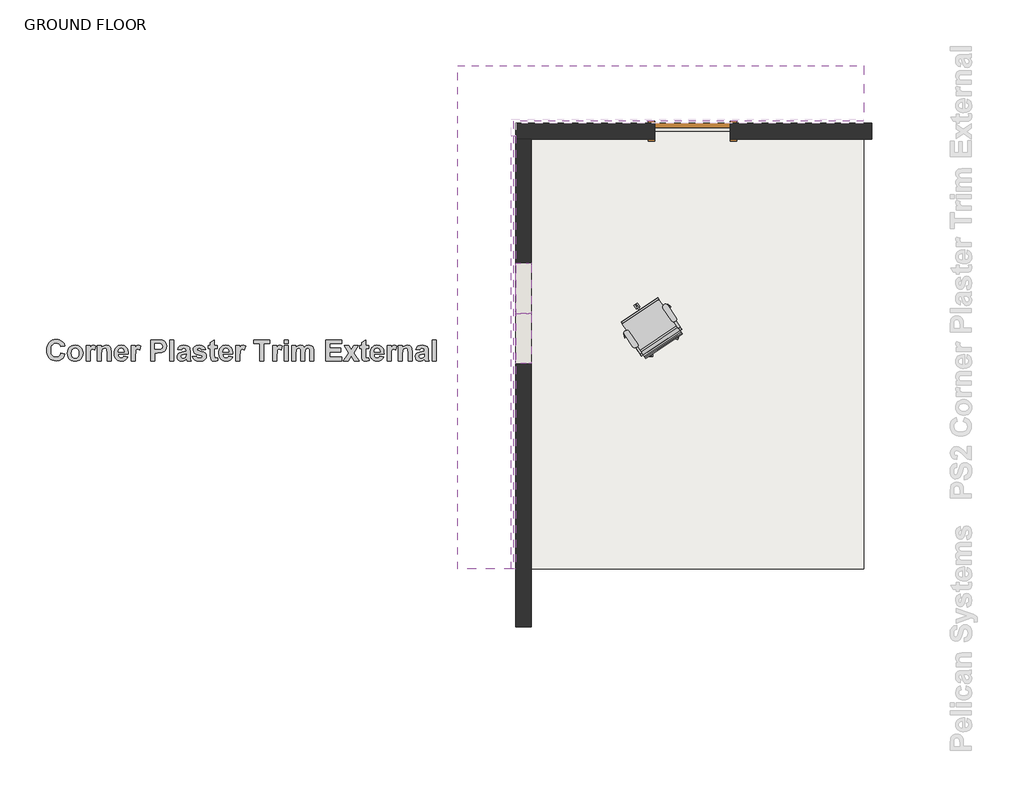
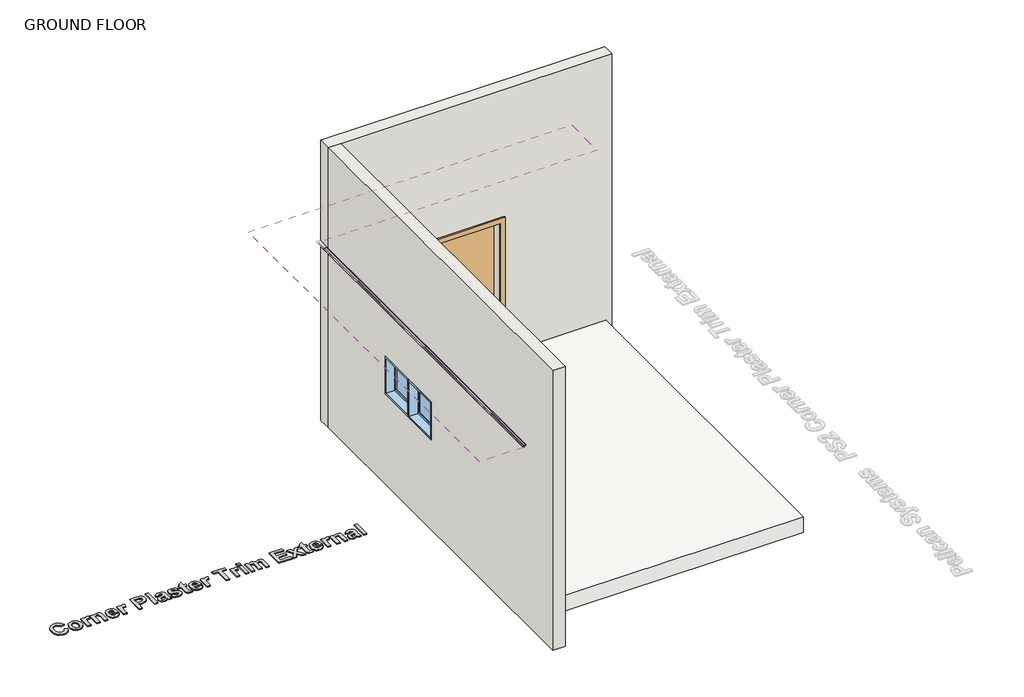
# One storey, part 1 of 2: 2 proxies, 2 walls, 2 windows, 1 covering, 1 door, 1 furniture element, 1 slab.
"""IFC4 building model written with IfcOpenShell, lengths in millimetres."""

from ifc_helpers import new_model, si_unit, frame, origin, origin_with_axes, place, context, project, spatial, polyline, outline, extrude, faceted_brep, transform, mapped, element, save
from components import m_single_flush_0915_x_2134mm_f5238887, chair_task_arms_chair_task_arms_3b363349, m_fixed_0610_x_0610mm_09852ef8

model = new_model("IFC4")

# Units and contexts
model_context = context("Model", 3, world=origin())
ifc_project = project(units=[si_unit("LENGTHUNIT", "METRE", prefix="MILLI")], contexts=[model_context])

# Site, building, storey
site = spatial("IfcSite", under=ifc_project)
building = spatial("IfcBuilding", under=site)
storey = spatial("IfcBuildingStorey", under=building, Name="GROUND FLOOR", Elevation=0.0)

# Proxies
placement = place(None, origin())
element("IfcBuildingElementProxy", 1, Name="600mm Arial", ObjectType="600mm Arial", at=placement, inside=storey, context=model_context, shape_type="SweptSolid", body=[
    extrude(outline(polyline([(107249.9452118, 62529.2353159), (107298.5289927, 62513.0407223), (107283.2042259, 62477.2592104), (107272.6832753, 62463.3241896), (107260.2566132, 62452.0263255), (107229.8917501, 62437.0573969), (107192.315232, 62432.067754), (107167.9877577, 62434.1988297), (107145.9297407, 62440.5920567), (107126.1411808, 62451.2474351), (107108.6220781, 62466.1649649), (107094.2857509, 62484.7792585), (107084.0455171, 62506.5249287), (107077.9013768, 62531.4019754), (107075.8533301, 62559.4103986), (107077.9191687, 62588.9449725), (107084.1166847, 62614.9844241), (107094.4458781, 62637.5287534), (107108.9067487, 62656.5779605), (107126.7362214, 62671.7169007), (107147.1712207, 62682.5304294), (107170.2117467, 62689.0185467), (107195.8577994, 62691.1812524), (107218.283516, 62689.3981075), (107238.495128, 62684.0486726), (107256.4926354, 62675.1329478), (107272.2760382, 62662.6509331), (107287.600805, 62642.1388355), (107298.5289927, 62614.2569326), (107249.9452118, 62606.1596358), (107242.5042388, 62622.9631082), (107229.7968599, 62635.7970073), (107212.8036071, 62643.9338417), (107192.5050124, 62646.6461199), (107165.0580229, 62641.7197371), (107143.3202602, 62626.9405889), (107135.0588824, 62615.5636497), (107129.1578983, 62601.1383628), (107124.437111, 62563.1427464), (107129.015563, 62523.0674531), (107134.738628, 62508.0827095), (107142.7509191, 62496.4665678), (107163.8244503, 62481.5688069), (107190.4174281, 62476.6028866), (107210.4946123, 62479.7738006), (107227.5827553, 62489.2865429), (107240.9701806, 62505.6155643), (107249.9452118, 62529.2353159)])), origin_with_axes(), (0.0, 0.0, 1.0), 15.0),
    extrude(outline(polyline([(107326.8695316, 62527.843593), (107329.8664804, 62551.9377956), (107338.8573265, 62575.2570615), (107353.3359891, 62595.4765811), (107372.7963871, 62610.2715443), (107396.0286703, 62619.3335581), (107421.8229889, 62622.3542294), (107441.8151673, 62620.6422521), (107459.9134956, 62615.5063202), (107476.1179736, 62606.9464336), (107490.4286015, 62594.9625925), (107502.1218414, 62580.3613634), (107510.4741556, 62563.9493131), (107515.4855442, 62545.7264414), (107517.156007, 62525.6927486), (107515.4677523, 62505.4989285), (107510.402988, 62487.1119759), (107501.9617142, 62470.5318908), (107490.1439309, 62455.7586732), (107475.768066, 62443.6226124), (107459.6525475, 62434.9539975), (107441.7973754, 62429.7528286), (107422.2025497, 62428.0191056), (107397.4283007, 62430.9053491), (107373.8401792, 62439.5640796), (107353.5969372, 62453.8055167), (107338.8573265, 62473.43988), (107329.8664804, 62498.2062214), (107326.8695316, 62527.843593)]), holes=[polyline([(107375.4533126, 62525.1866675), (107378.8140071, 62499.210476), (107388.8960905, 62480.1138239), (107403.9124642, 62468.371162), (107422.0760295, 62464.4569413), (107440.2237797, 62468.371162), (107455.1927083, 62480.1138239), (107465.2273466, 62499.3053662), (107468.5722261, 62525.5662283), (107465.2273466, 62551.2577492), (107455.1927083, 62570.2595112), (107440.2237797, 62582.0021731), (107422.0760295, 62585.9163937), (107403.9124642, 62582.0021731), (107388.8960905, 62570.2595112), (107378.8140071, 62551.162859), (107375.4533126, 62525.1866675)])]), origin_with_axes(), (0.0, 0.0, 1.0), 15.0),
    extrude(outline(polyline([(107602.1776237, 62432.067754), (107553.5938427, 62432.067754), (107553.5938427, 62618.305581), (107602.1776237, 62618.305581), (107602.1776237, 62592.3689271), (107621.598484, 62616.5659274), (107641.2091248, 62622.3542294), (107656.3757413, 62619.7921941), (107671.0046467, 62612.1060881), (107656.8343772, 62565.862932), (107645.1312529, 62571.7935693), (107634.3137705, 62573.7704485), (107617.2019049, 62568.235187), (107610.9549669, 62560.4779133), (107606.194642, 62548.2766155), (107602.1776237, 62487.7999298), (107602.1776237, 62432.067754)])), origin_with_axes(), (0.0, 0.0, 1.0), 15.0),
    extrude(outline(polyline([(107857.2424737, 62432.067754), (107808.6586927, 62432.067754), (107808.6586927, 62527.7803329), (107805.6222064, 62567.1281347), (107795.6903658, 62580.9821034), (107779.1794715, 62585.9163937), (107767.4209945, 62584.1530175), (107756.9435353, 62578.862889), (107748.656458, 62570.654887), (107743.4691273, 62560.1378901), (107739.8316697, 62517.0261106), (107739.8316697, 62432.067754), (107691.2478888, 62432.067754), (107691.2478888, 62618.305581), (107739.8316697, 62618.305581), (107739.8316697, 62591.4832853), (107752.123904, 62604.9893233), (107765.9106589, 62614.6364934), (107781.1919344, 62620.4247954), (107797.9677305, 62622.3542294), (107826.1817491, 62616.4710372), (107845.5393494, 62601.478386), (107854.6804383, 62580.8239531), (107857.2424737, 62547.7072743), (107857.2424737, 62432.067754)])), origin_with_axes(), (0.0, 0.0, 1.0), 15.0),
    extrude(outline(polyline([(108011.0911133, 62488.7488318), (108059.6748943, 62480.651535), (108047.8452497, 62457.9806854), (108030.7017541, 62441.4618835), (108008.4183728, 62431.3798001), (107981.1690712, 62428.0191056), (107959.1664067, 62429.9999385), (107940.2239511, 62435.9424371), (107924.3417043, 62445.8466014), (107911.5196664, 62459.7124315), (107898.1401486, 62488.4167161), (107893.6803094, 62523.7949446), (107895.159015, 62545.635505), (107899.5951317, 62564.9772902), (107906.9886595, 62581.8203002), (107917.3395985, 62596.164535), (107929.9520872, 62607.6225263), (107944.1302642, 62615.8068058), (107959.8741294, 62620.7173735), (107977.1836829, 62622.3542294), (107996.4187166, 62620.6738822), (108013.5108134, 62615.6328404), (108028.4599732, 62607.2311042), (108041.266196, 62595.4686735), (108051.470846, 62580.2348431), (108058.6152871, 62561.4189078), (108062.6995193, 62539.0208675), (108063.7235427, 62513.0407223), (107942.2640903, 62513.0407223), (107945.3796518, 62492.5760697), (107953.7141741, 62477.2354879), (107966.0024547, 62467.651578), (107980.9792908, 62464.4569413), (107991.179987, 62465.8961093), (107999.6410296, 62470.2136133), (108006.2991584, 62477.7257539), (108011.0911133, 62488.7488318)]), holes=[polyline([(108015.1397618, 62541.3812612), (108012.1823506, 62560.5886186), (108004.3222793, 62574.5612001), (107992.9038256, 62583.0775953), (107979.2712672, 62585.9163937), (107964.8795873, 62582.9273525), (107953.2080931, 62573.9602289), (107945.5536172, 62559.8057744), (107943.086472, 62541.3812612), (108015.1397618, 62541.3812612)])]), origin_with_axes(), (0.0, 0.0, 1.0), 15.0),
    extrude(outline(polyline([(108148.7451594, 62432.067754), (108100.1613784, 62432.067754), (108100.1613784, 62618.305581), (108148.7451594, 62618.305581), (108148.7451594, 62592.3689271), (108168.1660197, 62616.5659274), (108187.7766605, 62622.3542294), (108202.943277, 62619.7921941), (108217.5721824, 62612.1060881), (108203.4019129, 62565.862932), (108191.6987886, 62571.7935693), (108180.8813061, 62573.7704485), (108163.7694406, 62568.235187), (108157.5225026, 62560.4779133), (108152.7621777, 62548.2766155), (108148.7451594, 62487.7999298), (108148.7451594, 62432.067754)])), origin_with_axes(), (0.0, 0.0, 1.0), 15.0),
    extrude(outline(polyline([(108334.9829863, 62432.067754), (108334.9829863, 62687.132604), (108417.1578971, 62687.132604), (108478.0774037, 62683.3369961), (108498.1229578, 62674.2828898), (108514.6101296, 62658.5073945), (108525.641115, 62636.5956665), (108529.3181101, 62609.1328619), (108527.1593582, 62587.6481398), (108520.6831022, 62569.8799504), (108510.8777818, 62555.6780509), (108498.7318366, 62544.8921985), (108471.6881304, 62532.8411434), (108417.600718, 62529.2353159), (108383.5667673, 62529.2353159), (108383.5667673, 62432.067754), (108334.9829863, 62432.067754)]), holes=[polyline([(108383.5667673, 62642.5974715), (108383.5667673, 62573.7704485), (108413.74185, 62573.7704485), (108457.2964505, 62577.5660563), (108474.5032063, 62589.4905911), (108479.1765485, 62598.2758419), (108480.7343292, 62608.3737404), (108478.5439471, 62620.4406104), (108471.972801, 62630.1984857), (108462.0646829, 62637.1887302), (108449.8633851, 62640.9527081), (108410.1992826, 62642.5974715), (108383.5667673, 62642.5974715)])]), origin_with_axes(), (0.0, 0.0, 1.0), 15.0),
    extrude(outline(polyline([(108569.8045943, 62432.067754), (108569.8045943, 62687.132604), (108618.3883752, 62687.132604), (108618.3883752, 62432.067754), (108569.8045943, 62432.067754)])), origin_with_axes(), (0.0, 0.0, 1.0), 15.0),
    extrude(outline(polyline([(108707.4586403, 62561.6245032), (108662.9235078, 62569.7218), (108672.5785853, 62593.0647885), (108687.3735486, 62609.4491626), (108708.9373459, 62619.1279627), (108738.8989256, 62622.3542294), (108765.9900769, 62620.4010728), (108785.1420817, 62614.5416032), (108798.0787786, 62605.6851848), (108806.5240061, 62594.741182), (108811.1736258, 62577.7321142), (108812.723499, 62550.6805005), (108812.723499, 62493.2403011), (108815.2855343, 62457.0555059), (108824.8694443, 62432.067754), (108776.2856633, 62432.067754), (108771.7309338, 62447.5032261), (108770.0229103, 62453.6394588), (108744.0229963, 62434.4400089), (108729.7103915, 62429.6243314), (108714.4805149, 62428.0191056), (108689.7062659, 62431.9175112), (108670.7993941, 62443.612728), (108658.8195067, 62461.2543972), (108654.8262109, 62482.9921598), (108656.6054021, 62497.8899208), (108661.9429757, 62511.0796582), (108670.491001, 62521.9762158), (108681.9015472, 62529.9944375), (108718.9087241, 62541.4445213), (108764.1397181, 62553.5272064), (108764.1397181, 62558.651277), (108762.6293824, 62571.2716733), (108758.0983755, 62579.6536407), (108749.3921999, 62584.3507054), (108735.3563583, 62585.9163937), (108725.2821823, 62584.5721159), (108717.7067816, 62580.5392825), (108707.4586403, 62561.6245032)]), holes=[polyline([(108764.1397181, 62517.0893707), (108736.7480812, 62510.3521667), (108712.2031502, 62502.6660607), (108705.6082815, 62495.7548914), (108703.4099919, 62487.1673285), (108705.1733681, 62478.5560431), (108710.4634965, 62471.1941453), (108718.4738107, 62466.1412423), (108728.3977438, 62464.4569413), (108740.3064636, 62466.4180054), (108751.614212, 62472.3011976), (108762.3684344, 62486.8510279), (108764.1397181, 62508.2962124), (108764.1397181, 62517.0893707)])]), origin_with_axes(), (0.0, 0.0, 1.0), 15.0),
    extrude(outline(polyline([(108841.0640379, 62484.7001834), (108889.6478189, 62492.7974802), (108894.273716, 62480.5566448), (108902.0784347, 62471.6685963), (108913.3308306, 62466.2598551), (108928.2997592, 62464.4569413), (108944.5417979, 62466.1807799), (108956.1974771, 62471.3522956), (108960.941987, 62476.9824473), (108962.5234903, 62484.2573625), (108959.1707033, 62493.3668214), (108943.2924103, 62499.7560947), (108896.3692078, 62512.1867105), (108870.479999, 62523.5419041), (108854.4910008, 62541.5235965), (108849.1613347, 62565.356851), (108853.7318792, 62587.5453421), (108867.4435127, 62605.9065952), (108890.7706862, 62618.2423209), (108924.1878506, 62622.3542294), (108956.0551418, 62619.0330725), (108978.5283035, 62609.0696018), (108993.5367697, 62592.5903376), (109003.0099744, 62569.7218), (108954.4261935, 62561.6245032), (108950.851996, 62572.0149798), (108945.063694, 62579.6536407), (108936.7133567, 62584.3507054), (108925.4530533, 62585.9163937), (108911.6148995, 62584.5879309), (108902.3631053, 62580.6025427), (108897.7451157, 62570.7339621), (108902.3631053, 62561.9408039), (108945.3483646, 62548.3398756), (108976.575147, 62538.5187402), (108996.6839613, 62526.6416505), (109007.5014437, 62510.968953), (109011.1072712, 62490.1405547), (109005.8804029, 62466.4417279), (108990.1997978, 62446.3329137), (108978.4907428, 62438.3206226), (108964.2710514, 62432.5975576), (108928.2997592, 62428.0191056), (108894.9853925, 62431.8305285), (108869.4362069, 62443.2647973), (108851.5098671, 62461.2464896), (108841.0640379, 62484.7001834)])), origin_with_axes(), (0.0, 0.0, 1.0), 15.0),
    extrude(outline(polyline([(109144.7126689, 62618.305581), (109144.7126689, 62581.8677453), (109108.2748331, 62581.8677453), (109108.2748331, 62501.9701993), (109109.3818854, 62473.7245506), (109114.4110659, 62467.0822368), (109123.9633457, 62464.4569413), (109146.7369931, 62469.138191), (109148.7613173, 62434.5981593), (109130.0205033, 62429.663869), (109108.9706946, 62428.0191056), (109084.4257636, 62432.5738351), (109068.3893203, 62444.3402195), (109061.2725555, 62463.8876001), (109059.6910522, 62499.2500136), (109059.6910522, 62581.8677453), (109035.3991617, 62581.8677453), (109035.3991617, 62618.305581), (109059.6910522, 62618.305581), (109059.6910522, 62654.7434167), (109108.2748331, 62683.0839556), (109108.2748331, 62618.305581), (109144.7126689, 62618.305581)])), origin_with_axes(), (0.0, 0.0, 1.0), 15.0),
    extrude(outline(polyline([(109278.3180665, 62488.7488318), (109326.9018474, 62480.651535), (109315.0722028, 62457.9806854), (109297.9287072, 62441.4618835), (109275.6453259, 62431.3798001), (109248.3960243, 62428.0191056), (109226.3933598, 62429.9999385), (109207.4509042, 62435.9424371), (109191.5686575, 62445.8466014), (109178.7466196, 62459.7124315), (109165.3671018, 62488.4167161), (109160.9072625, 62523.7949446), (109162.3859681, 62545.635505), (109166.8220848, 62564.9772902), (109174.2156127, 62581.8203002), (109184.5665517, 62596.164535), (109197.1790404, 62607.6225263), (109211.3572173, 62615.8068058), (109227.1010825, 62620.7173735), (109244.410636, 62622.3542294), (109263.6456697, 62620.6738822), (109280.7377665, 62615.6328404), (109295.6869263, 62607.2311042), (109308.4931492, 62595.4686735), (109318.6977991, 62580.2348431), (109325.8422402, 62561.4189078), (109329.9264725, 62539.0208675), (109330.9504958, 62513.0407223), (109209.4910435, 62513.0407223), (109212.6066049, 62492.5760697), (109220.9411272, 62477.2354879), (109233.2294078, 62467.651578), (109248.2062439, 62464.4569413), (109258.4069401, 62465.8961093), (109266.8679827, 62470.2136133), (109273.5261115, 62477.7257539), (109278.3180665, 62488.7488318)]), holes=[polyline([(109282.3667149, 62541.3812612), (109279.4093037, 62560.5886186), (109271.5492324, 62574.5612001), (109260.1307787, 62583.0775953), (109246.4982203, 62585.9163937), (109232.1065404, 62582.9273525), (109220.4350462, 62573.9602289), (109212.7805703, 62559.8057744), (109210.3134252, 62541.3812612), (109282.3667149, 62541.3812612)])]), origin_with_axes(), (0.0, 0.0, 1.0), 15.0),
    extrude(outline(polyline([(109415.9721125, 62432.067754), (109367.3883315, 62432.067754), (109367.3883315, 62618.305581), (109415.9721125, 62618.305581), (109415.9721125, 62592.3689271), (109435.3929728, 62616.5659274), (109455.0036136, 62622.3542294), (109470.1702301, 62619.7921941), (109484.7991355, 62612.1060881), (109470.6288661, 62565.862932), (109458.9257417, 62571.7935693), (109448.1082593, 62573.7704485), (109430.9963937, 62568.235187), (109424.7494557, 62560.4779133), (109419.9891308, 62548.2766155), (109415.9721125, 62487.7999298), (109415.9721125, 62432.067754)])), origin_with_axes(), (0.0, 0.0, 1.0), 15.0),
    extrude(outline(polyline([(109658.8910172, 62432.067754), (109658.8910172, 62642.5974715), (109586.0153458, 62642.5974715), (109586.0153458, 62687.132604), (109780.3504696, 62687.132604), (109780.3504696, 62642.5974715), (109707.4747982, 62642.5974715), (109707.4747982, 62432.067754), (109658.8910172, 62432.067754)])), origin_with_axes(), (0.0, 0.0, 1.0), 15.0),
    extrude(outline(polyline([(109861.3234379, 62432.067754), (109812.7396569, 62432.067754), (109812.7396569, 62618.305581), (109861.3234379, 62618.305581), (109861.3234379, 62592.3689271), (109880.7442982, 62616.5659274), (109900.354939, 62622.3542294), (109915.5215555, 62619.7921941), (109930.1504609, 62612.1060881), (109915.9801914, 62565.862932), (109904.2770671, 62571.7935693), (109893.4595846, 62573.7704485), (109876.3477191, 62568.235187), (109870.1007811, 62560.4779133), (109865.3404562, 62548.2766155), (109861.3234379, 62487.7999298), (109861.3234379, 62432.067754)])), origin_with_axes(), (0.0, 0.0, 1.0), 15.0),
    extrude(outline(polyline([(109950.3937029, 62642.5974715), (109950.3937029, 62687.132604), (109998.9774839, 62687.132604), (109998.9774839, 62642.5974715), (109950.3937029, 62642.5974715)])), origin_with_axes(), (0.0, 0.0, 1.0), 15.0),
    extrude(outline(polyline([(109950.3937029, 62432.067754), (109950.3937029, 62618.305581), (109998.9774839, 62618.305581), (109998.9774839, 62432.067754), (109950.3937029, 62432.067754)])), origin_with_axes(), (0.0, 0.0, 1.0), 15.0),
    extrude(outline(polyline([(110043.5126164, 62618.305581), (110092.0963974, 62618.305581), (110092.0963974, 62593.3810892), (110104.056516, 62606.056838), (110117.0999643, 62615.1109444), (110131.2267424, 62620.5434081), (110146.4368503, 62622.3542294), (110162.0858253, 62620.5750382), (110175.5048807, 62615.2374646), (110186.7098315, 62606.2940635), (110195.7164927, 62593.6973899), (110208.155016, 62606.2940635), (110221.5582564, 62615.2374646), (110235.9103987, 62620.5750382), (110251.195628, 62622.3542294), (110269.6517713, 62620.2745526), (110285.0397983, 62614.0355221), (110297.1541135, 62603.7636583), (110305.7891214, 62589.5854813), (110309.4898391, 62574.007674), (110310.7234117, 62551.0600613), (110310.7234117, 62432.067754), (110262.1396307, 62432.067754), (110262.1396307, 62539.2936768), (110260.9060581, 62562.2412895), (110257.2053405, 62575.2886916), (110248.823373, 62583.2594682), (110236.8355781, 62585.9163937), (110227.1330555, 62584.3269829), (110218.015689, 62579.5587505), (110210.4244733, 62571.7224017), (110205.3004026, 62560.9286418), (110201.4099045, 62522.1501812), (110201.4099045, 62432.067754), (110152.8261236, 62432.067754), (110152.8261236, 62534.8654676), (110150.2957183, 62570.196251), (110142.4830921, 62582.0258956), (110128.0914122, 62585.9163937), (110117.7009356, 62584.374428), (110108.4175113, 62579.7485309), (110100.9211857, 62572.2047602), (110095.8920053, 62561.9091738), (110092.0963974, 62523.2256034), (110092.0963974, 62432.067754), (110043.5126164, 62432.067754), (110043.5126164, 62618.305581)])), origin_with_axes(), (0.0, 0.0, 1.0), 15.0),
    extrude(outline(polyline([(110456.4747545, 62432.067754), (110456.4747545, 62687.132604), (110646.7612299, 62687.132604), (110646.7612299, 62642.5974715), (110505.0585355, 62642.5974715), (110505.0585355, 62585.9163937), (110638.6639331, 62585.9163937), (110638.6639331, 62541.3812612), (110505.0585355, 62541.3812612), (110505.0585355, 62476.6028866), (110650.8098783, 62476.6028866), (110650.8098783, 62432.067754), (110456.4747545, 62432.067754)])), origin_with_axes(), (0.0, 0.0, 1.0), 15.0),
    extrude(outline(polyline([(110669.0287962, 62432.067754), (110734.8193329, 62527.9701133), (110677.126093, 62618.305581), (110734.882593, 62618.305581), (110762.9700914, 62567.1281347), (110793.4614747, 62618.305581), (110851.2179747, 62618.305581), (110791.8167113, 62530.1209578), (110859.3152716, 62432.067754), (110801.5587715, 62432.067754), (110762.9700914, 62489.7609939), (110726.7852962, 62432.067754), (110669.0287962, 62432.067754)])), origin_with_axes(), (0.0, 0.0, 1.0), 15.0),
    extrude(outline(polyline([(110974.7017513, 62618.305581), (110974.7017513, 62581.8677453), (110938.2639156, 62581.8677453), (110938.2639156, 62501.9701993), (110939.3709679, 62473.7245506), (110944.4001484, 62467.0822368), (110953.9524282, 62464.4569413), (110976.7260755, 62469.138191), (110978.7503997, 62434.5981593), (110960.0095858, 62429.663869), (110938.959777, 62428.0191056), (110914.414846, 62432.5738351), (110898.3784027, 62444.3402195), (110891.2616379, 62463.8876001), (110889.6801347, 62499.2500136), (110889.6801347, 62581.8677453), (110865.3882442, 62581.8677453), (110865.3882442, 62618.305581), (110889.6801347, 62618.305581), (110889.6801347, 62654.7434167), (110938.2639156, 62683.0839556), (110938.2639156, 62618.305581), (110974.7017513, 62618.305581)])), origin_with_axes(), (0.0, 0.0, 1.0), 15.0),
    extrude(outline(polyline([(111108.3071489, 62488.7488318), (111156.8909299, 62480.651535), (111145.0612853, 62457.9806854), (111127.9177897, 62441.4618835), (111105.6344084, 62431.3798001), (111078.3851068, 62428.0191056), (111056.3824423, 62429.9999385), (111037.4399867, 62435.9424371), (111021.5577399, 62445.8466014), (111008.735702, 62459.7124315), (110995.3561842, 62488.4167161), (110990.896345, 62523.7949446), (110992.3750505, 62545.635505), (110996.8111673, 62564.9772902), (111004.2046951, 62581.8203002), (111014.5556341, 62596.164535), (111027.1681228, 62607.6225263), (111041.3462998, 62615.8068058), (111057.090165, 62620.7173735), (111074.3997185, 62622.3542294), (111093.6347522, 62620.6738822), (111110.726849, 62615.6328404), (111125.6760088, 62607.2311042), (111138.4822316, 62595.4686735), (111148.6868816, 62580.2348431), (111155.8313227, 62561.4189078), (111159.9155549, 62539.0208675), (111160.9395783, 62513.0407223), (111039.4801259, 62513.0407223), (111042.5956874, 62492.5760697), (111050.9302097, 62477.2354879), (111063.2184902, 62467.651578), (111078.1953264, 62464.4569413), (111088.3960226, 62465.8961093), (111096.8570651, 62470.2136133), (111103.515194, 62477.7257539), (111108.3071489, 62488.7488318)]), holes=[polyline([(111112.3557973, 62541.3812612), (111109.3983862, 62560.5886186), (111101.5383149, 62574.5612001), (111090.1198611, 62583.0775953), (111076.4873028, 62585.9163937), (111062.0956229, 62582.9273525), (111050.4241287, 62573.9602289), (111042.7696528, 62559.8057744), (111040.3025076, 62541.3812612), (111112.3557973, 62541.3812612)])]), origin_with_axes(), (0.0, 0.0, 1.0), 15.0),
    extrude(outline(polyline([(111245.961195, 62432.067754), (111197.377414, 62432.067754), (111197.377414, 62618.305581), (111245.961195, 62618.305581), (111245.961195, 62592.3689271), (111265.3820553, 62616.5659274), (111284.9926961, 62622.3542294), (111300.1593126, 62619.7921941), (111314.788218, 62612.1060881), (111300.6179485, 62565.862932), (111288.9148242, 62571.7935693), (111278.0973417, 62573.7704485), (111260.9854762, 62568.235187), (111254.7385382, 62560.4779133), (111249.9782133, 62548.2766155), (111245.961195, 62487.7999298), (111245.961195, 62432.067754)])), origin_with_axes(), (0.0, 0.0, 1.0), 15.0),
    extrude(outline(polyline([(111501.0260449, 62432.067754), (111452.442264, 62432.067754), (111452.442264, 62527.7803329), (111449.4057777, 62567.1281347), (111439.473937, 62580.9821034), (111422.9630427, 62585.9163937), (111411.2045658, 62584.1530175), (111400.7271065, 62578.862889), (111392.4400293, 62570.654887), (111387.2526985, 62560.1378901), (111383.615241, 62517.0261106), (111383.615241, 62432.067754), (111335.03146, 62432.067754), (111335.03146, 62618.305581), (111383.615241, 62618.305581), (111383.615241, 62591.4832853), (111395.9074753, 62604.9893233), (111409.6942302, 62614.6364934), (111424.9755057, 62620.4247954), (111441.7513018, 62622.3542294), (111469.9653204, 62616.4710372), (111489.3229206, 62601.478386), (111498.4640096, 62580.8239531), (111501.0260449, 62547.7072743), (111501.0260449, 62432.067754)])), origin_with_axes(), (0.0, 0.0, 1.0), 15.0),
    extrude(outline(polyline([(111590.09631, 62561.6245032), (111545.5611775, 62569.7218), (111555.216255, 62593.0647885), (111570.0112183, 62609.4491626), (111591.5750156, 62619.1279627), (111621.5365953, 62622.3542294), (111648.6277466, 62620.4010728), (111667.7797514, 62614.5416032), (111680.7164483, 62605.6851848), (111689.1616759, 62594.741182), (111693.8112955, 62577.7321142), (111695.3611687, 62550.6805005), (111695.3611687, 62493.2403011), (111697.9232041, 62457.0555059), (111707.507114, 62432.067754), (111658.923333, 62432.067754), (111654.3686036, 62447.5032261), (111652.66058, 62453.6394588), (111626.660666, 62434.4400089), (111612.3480613, 62429.6243314), (111597.1181846, 62428.0191056), (111572.3439356, 62431.9175112), (111553.4370638, 62443.612728), (111541.4571765, 62461.2543972), (111537.4638807, 62482.9921598), (111539.2430719, 62497.8899208), (111544.5806454, 62511.0796582), (111553.1286707, 62521.9762158), (111564.5392169, 62529.9944375), (111601.5463938, 62541.4445213), (111646.7773878, 62553.5272064), (111646.7773878, 62558.651277), (111645.2670522, 62571.2716733), (111640.7360452, 62579.6536407), (111632.0298697, 62584.3507054), (111617.994028, 62585.9163937), (111607.9198521, 62584.5721159), (111600.3444513, 62580.5392825), (111590.09631, 62561.6245032)]), holes=[polyline([(111646.7773878, 62517.0893707), (111619.3857509, 62510.3521667), (111594.8408199, 62502.6660607), (111588.2459512, 62495.7548914), (111586.0476616, 62487.1673285), (111587.8110378, 62478.5560431), (111593.1011663, 62471.1941453), (111601.1114804, 62466.1412423), (111611.0354135, 62464.4569413), (111622.9441333, 62466.4180054), (111634.2518818, 62472.3011976), (111645.0061041, 62486.8510279), (111646.7773878, 62508.2962124), (111646.7773878, 62517.0893707)])]), origin_with_axes(), (0.0, 0.0, 1.0), 15.0),
    extrude(outline(polyline([(111743.9449497, 62432.067754), (111743.9449497, 62687.132604), (111792.5287306, 62687.132604), (111792.5287306, 62432.067754), (111743.9449497, 62432.067754)])), origin_with_axes(), (0.0, 0.0, 1.0), 15.0),
])
element("IfcBuildingElementProxy", 2, Name="TR02 : Pelican Systems Plaster Trim 25 x 20", ObjectType="TR02 : Pelican Systems Plaster Trim 25 x 20", at=placement, inside=storey, context=model_context, shape_type="SweptSolid", body=[
    extrude(outline(polyline([(2636.0, 112752.7345529), (2636.0, 112751.7345529), (2621.0, 112751.7345529), (2621.0, 112726.7345529), (2612.0, 112726.7345529), (2612.0, 112702.7345529), (2611.0, 112702.7345529), (2611.0, 112726.7345529), (2600.0, 112726.7345529), (2600.0, 112727.7345529), (2620.0, 112727.7345529), (2620.0, 112752.7345529), (2636.0, 112752.7345529)])), frame((0.0, 59912.9193804, 0.0), z_axis=(0.0, 1.0, 0.0), x_axis=(0.0, 0.0, 1.0)), (0.0, 0.0, 1.0), 5245.0),
])

# Covering
element("IfcCovering", 3, ObjectType="_C2.3 - 12mm FLUSHPLASTER CEILING (UNDER CONCRETE SOFFIT)", at=placement, inside=storey, context=model_context, shape_type="SweptSolid", body=[
    extrude(outline(polyline([(116966.7345529, 65333.9193804), (112726.7345529, 65333.9193804), (112726.7345529, 59912.9193804), (112052.7345529, 59912.9193804), (112052.7345529, 66007.9193804), (116966.7345529, 66007.9193804), (116966.7345529, 65333.9193804)])), frame((0.0, 0.0, 2600.0), z_axis=(0.0, 0.0, 1.0), x_axis=(1.0, 0.0, 0.0)), (0.0, 0.0, 1.0), 11.0),
])

# Door
m_single_flush_0915_x_2134mm_shape = m_single_flush_0915_x_2134mm_f5238887(model_context)
element("IfcDoor", 4, ObjectType="M_Single-Flush : 0915 x 2134mm", at=placement, inside=storey, context=model_context, shape_type="MappedRepresentation", body=[
    mapped(m_single_flush_0915_x_2134mm_shape, transform((114894.7345529, 65212.9193804, 0.0), x_axis=(1.0, 0.0, 0.0), y_axis=(0.0, 1.0, 0.0), z_axis=(0.0, 0.0, 1.0))),
])

# Furniture
chair_task_arms_chair_task_arms_shape = chair_task_arms_chair_task_arms_3b363349(model_context)
element("IfcFurniture", 5, ObjectType="Chair-Task Arms : Chair-Task Arms", at=placement, inside=storey, context=model_context, shape_type="MappedRepresentation", body=[
    mapped(chair_task_arms_chair_task_arms_shape, transform((114292.677586, 62736.7323612, 0.0), x_axis=(0.8290375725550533, 0.5591929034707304, 0.0), y_axis=(-0.5591929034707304, 0.8290375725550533, 0.0), z_axis=(0.0, 0.0, 1.0))),
])

# Slab
element("IfcSlab", 6, ObjectType="Generic Floor - 250mm", at=placement, inside=storey, context=model_context, shape_type="Brep", body=[
    faceted_brep([(112866.7345529, 65212.9193804, -250.0), (116966.7345529, 65212.9193804, -250.0), (116966.7345529, 65117.9193804, -250.0), (116966.7345529, 59912.9193804, -250.0), (112866.7345529, 59912.9193804, -250.0), (112866.7345529, 65117.9193804, -250.0), (112866.7345529, 65212.9193804, 0.0), (112866.7345529, 65117.9193804, 0.0), (112866.7345529, 59912.9193804, 0.0), (116966.7345529, 59912.9193804, 0.0), (116966.7345529, 65117.9193804, 0.0), (116966.7345529, 65212.9193804, 0.0), (115352.2345529, 65212.9193804, 0.0), (114437.2345529, 65212.9193804, 0.0)], [[[0, 1, 2, 3, 4, 5]], [[6, 7, 8, 9, 10, 11, 12, 13]], [[1, 0, 6, 13, 12, 11]], [[3, 2, 1, 11, 10, 9]], [[4, 3, 9, 8]], [[0, 5, 4, 8, 7, 6]]]),
])

# Walls
element("IfcWall", 7, ObjectType="190mm MAXI BLOCK- plastered", at=placement, inside=storey, context=model_context, shape_type="Brep", body=[
    faceted_brep([(117061.7345529, 65117.9193804, -250.0), (117061.7345529, 65117.9193804, 4250.0), (112942.7345529, 65117.9193804, 4250.0), (112752.7345529, 65117.9193804, 4250.0), (112752.7345529, 65117.9193804, -250.0), (112866.7345529, 65117.9193804, -250.0), (112866.7345529, 65117.9193804, 0.0), (114437.2345529, 65117.9193804, 0.0), (114437.2345529, 65117.9193804, 2134.0), (115352.2345529, 65117.9193804, 2134.0), (115352.2345529, 65117.9193804, 0.0), (116966.7345529, 65117.9193804, 0.0), (116966.7345529, 65117.9193804, -250.0), (117061.7345529, 65307.9193804, -250.0), (112752.7345529, 65307.9193804, -250.0), (112752.7345529, 65307.9193804, 4250.0), (117061.7345529, 65307.9193804, 4250.0), (114437.2345529, 65307.9193804, 0.0), (115352.2345529, 65307.9193804, 0.0), (115352.2345529, 65307.9193804, 2134.0), (114437.2345529, 65307.9193804, 2134.0), (116966.7345529, 65212.9193804, -250.0), (112866.7345529, 65212.9193804, -250.0), (114437.2345529, 65212.9193804, 0.0), (115352.2345529, 65212.9193804, 0.0), (112866.7345529, 65212.9193804, 0.0), (116966.7345529, 65212.9193804, 0.0)], [[[0, 1, 2, 3, 4, 5, 6, 7, 8, 9, 10, 11, 12]], [[13, 14, 15, 16], [17, 18, 19, 20]], [[14, 13, 0, 12, 21, 22, 5, 4]], [[1, 0, 13, 16]], [[3, 2, 1, 16, 15]], [[18, 17, 23, 24]], [[19, 18, 24, 10, 9]], [[20, 19, 9, 8]], [[17, 20, 8, 7, 23]], [[25, 23, 7, 6]], [[24, 26, 11, 10]], [[25, 22, 21, 26, 24, 23]], [[22, 25, 6, 5]], [[26, 21, 12, 11]], [[4, 3, 15, 14]]]),
])
element("IfcWall", 8, ObjectType="190mm MAXI BLOCK- plastered", at=placement, inside=storey, context=model_context, shape_type="SweptSolid", body=[
    extrude(outline(polyline([(65117.9193804, -250.0), (59212.9193804, -250.0), (59212.9193804, 4250.0), (65117.9193804, 4250.0), (65117.9193804, -250.0)]), holes=[polyline([(62397.9193804, 1200.0), (63617.9193804, 1200.0), (63617.9193804, 1810.0), (62397.9193804, 1810.0), (62397.9193804, 1200.0)])]), frame((112752.7345529, 0.0, 0.0), z_axis=(1.0, 0.0, 0.0), x_axis=(0.0, 1.0, 0.0)), (0.0, 0.0, 1.0), 190.0),
])

# Windows
m_fixed_0610_x_0610mm_shape = m_fixed_0610_x_0610mm_09852ef8(model_context)
element("IfcWindow", 9, ObjectType="M_Fixed : 0610 x 0610mm", at=placement, inside=storey, context=model_context, shape_type="MappedRepresentation", body=[
    mapped(m_fixed_0610_x_0610mm_shape, transform((112834.7345529, 63312.9193804, 285.0), x_axis=(0.0, -1.0, 0.0), y_axis=(1.0, 0.0, 0.0), z_axis=(0.0, 0.0, 1.0))),
])
element("IfcWindow", 10, ObjectType="M_Fixed : 0610 x 0610mm", at=placement, inside=storey, context=model_context, shape_type="MappedRepresentation", body=[
    mapped(m_fixed_0610_x_0610mm_shape, transform((112834.7345529, 62702.9193804, 285.0), x_axis=(0.0, -1.0, 0.0), y_axis=(1.0, 0.0, 0.0), z_axis=(0.0, 0.0, 1.0))),
])

save(model, "model.ifc")
